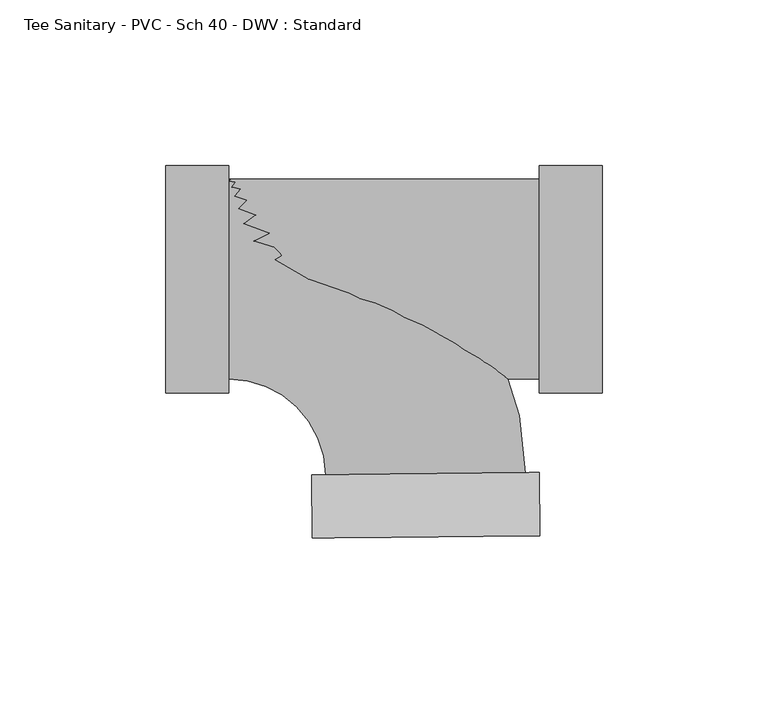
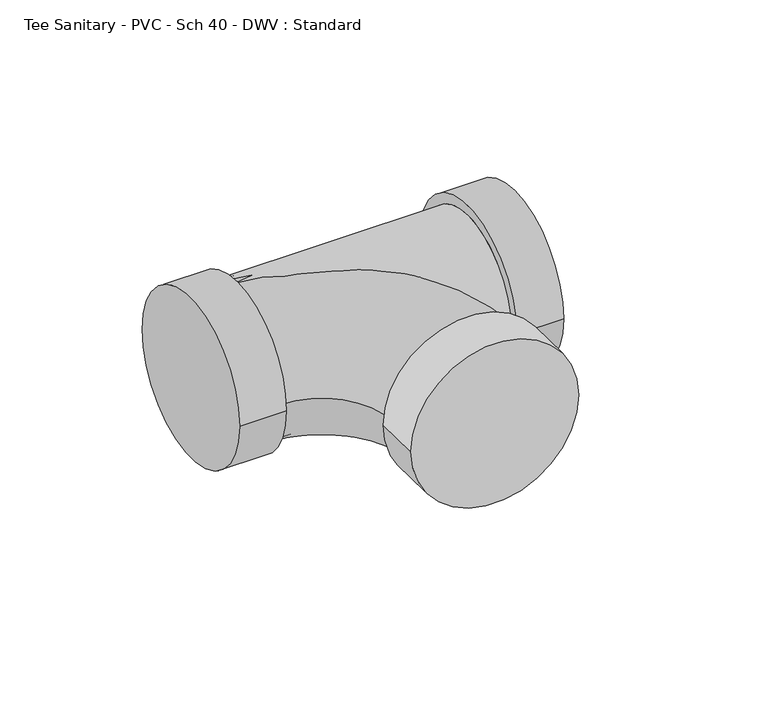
"""IFC4 building model written with IfcOpenShell, lengths in millimetres: pipe fitting geometry, Tee Sanitary - PVC - Sch 40 - DWV : Standard."""

from ifc_helpers import new_model, si_unit, point, frame, origin, place, context, project, spatial, circle_curve, ellipse_curve, trimmed, source, transform, mapped, element, save
from ifc_brep_helpers import plane_surface, cylinder_surface, revolved_surface, advanced_brep


def tee_sanitary_pvc_sch_40_dwv_standard_c06fe43b(model_context):
    return source(origin(), model_context, "Body", "AdvancedBrep", [
        advanced_brep(
        [(-58.7502, -30.1625, 0.0), (-58.7502, 30.1625, 0.0), (-29.5497329, -59.0607796, 0.0), (30.7720032, -58.433263, 0.0), (35.1228416, -77.4390327, 0.0), (-33.5042451, -78.1529485, 0.0), (34.9246785, -58.3900634, 0.0), (-33.7024082, -59.1039792, 0.0)],
        [
            (0, 1, circle_curve(frame((-58.7502, 0.0, 0.0), z_axis=(-1.0, 0.0, 0.0), x_axis=(0.0, 1.0, 0.0)), 30.1625)),
            (1, 0, circle_curve(frame((-58.7502, 0.0, 0.0), z_axis=(-1.0, 0.0, 0.0), x_axis=(0.0, 1.0, 0.0)), 30.1625)),
            (0, 2, circle_curve(frame((-58.7502, -59.364547, 0.0), z_axis=(0.0, 0.0, -1.0), x_axis=(0.0, 1.0, 0.0)), 29.202047)),
            (2, 3, circle_curve(frame((0.6111351, -58.7470213, 0.0), z_axis=(-0.010402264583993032, 0.9999458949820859, 0.0), x_axis=(0.9999458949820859, 0.010402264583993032, 0.0)), 30.1625)),
            (3, 1, circle_curve(frame((-58.7502, -59.364547, 0.0), z_axis=(0.0, 0.0, 1.0), x_axis=(0.0, 1.0, 0.0)), 89.527047)),
            (3, 2, circle_curve(frame((0.6111351, -58.7470213, 0.0), z_axis=(-0.010402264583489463, 0.9999458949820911, 0.0), x_axis=(0.9999458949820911, 0.010402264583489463, 0.0)), 30.1625)),
            (4, 5, circle_curve(frame((0.8092983, -77.7959906, 0.0), z_axis=(0.01040226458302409, -0.999945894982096, 0.0), x_axis=(-0.999945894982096, -0.01040226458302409, 0.0)), 34.3154)),
            (5, 4, circle_curve(frame((0.8092983, -77.7959906, 0.0), z_axis=(0.01040226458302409, -0.999945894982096, 0.0), x_axis=(-0.999945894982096, -0.01040226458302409, 0.0)), 34.3154)),
            (6, 7, circle_curve(frame((0.6111351, -58.7470213, 0.0), z_axis=(-0.01040226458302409, 0.999945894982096, 0.0), x_axis=(-0.999945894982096, -0.01040226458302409, 0.0)), 34.3154)),
            (7, 6, circle_curve(frame((0.6111351, -58.7470213, 0.0), z_axis=(-0.01040226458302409, 0.999945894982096, 0.0), x_axis=(-0.999945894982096, -0.01040226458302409, 0.0)), 34.3154)),
            (4, 6),
            (7, 5),
        ],
        [
            plane_surface(frame((-58.7502, 0.0, 0.0), z_axis=(-1.0, 0.0, 0.0), x_axis=(0.0, 0.0, 1.0))),
            revolved_surface(trimmed(ellipse_curve(frame((-58.7502, 0.0, 0.0), z_axis=(-1.0, 0.0, 0.0), x_axis=(0.0, 1.0, 0.0)), 30.1625, 30.1625), [point((-58.7502, -30.1625, 0.0))], [point((-58.7502, 30.1625, 0.0))], True, "CARTESIAN"), (-58.7502, -59.364547, 0.0), (0.0, 0.0, -1.0)),
            revolved_surface(trimmed(ellipse_curve(frame((-58.7502, 0.0, 0.0), z_axis=(-1.0, 0.0, 0.0), x_axis=(0.0, 1.0, 0.0)), 30.1625, 30.1625), [point((-58.7502, 30.1625, 0.0))], [point((-58.7502, -30.1625, 0.0))], True, "CARTESIAN"), (-58.7502, -59.364547, 0.0), (0.0, 0.0, -1.0)),
            plane_surface(frame((0.8092983, -77.7959906, 0.0), z_axis=(0.01040226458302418, -0.999945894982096, 0.0), x_axis=(0.0, 0.0, 1.0))),
            plane_surface(frame((0.6111351, -58.7470213, 0.0), z_axis=(-0.01040226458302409, 0.999945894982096, 0.0), x_axis=(0.0, 0.0, 1.0))),
            cylinder_surface(frame((0.8092983, -77.7959906, 0.0), z_axis=(0.01040226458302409, -0.999945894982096, 0.0), x_axis=(-0.999945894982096, -0.01040226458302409, 0.0)), 34.3154),
        ],
        [
            (0, [[1, 2]]),
            (1, [[-1, 3, 4, 5]]),
            (2, [[-2, -5, 6, -3]]),
            (3, [[7, 8]]),
            (4, [[9, 10], [-4, -6]]),
            (5, [[-7, 11, -10, 12]]),
            (5, [[-8, -12, -9, -11]]),
        ],
    ),
        advanced_brep(
        [(-58.7502, -30.1625, 0.0), (34.925, -30.1625, 0.0), (34.925, 30.1625, 0.0), (-58.7502, 30.1625, 0.0), (34.925, -34.3154, 0.0), (34.925, 34.3154, 0.0), (53.975, -34.3154, 0.0), (53.975, 34.3154, 0.0), (-77.8002, -34.3154, 0.0), (-77.8002, 34.3154, 0.0), (-58.7502, -34.3154, 0.0), (-58.7502, 34.3154, 0.0)],
        [
            (0, 1),
            (1, 2, circle_curve(frame((34.925, 0.0, 0.0), z_axis=(-1.0, 0.0, 0.0), x_axis=(0.0, 1.0, 0.0)), 30.1625)),
            (2, 3),
            (3, 0, circle_curve(frame((-58.7502, 0.0, 0.0), z_axis=(1.0, 0.0, 0.0), x_axis=(0.0, 1.0, 0.0)), 30.1625)),
            (0, 3, circle_curve(frame((-58.7502, 0.0, 0.0), z_axis=(1.0, 0.0, 0.0), x_axis=(0.0, 1.0, 0.0)), 30.1625)),
            (2, 1, circle_curve(frame((34.925, 0.0, 0.0), z_axis=(-1.0, 0.0, 0.0), x_axis=(0.0, 1.0, 0.0)), 30.1625)),
            (4, 5, circle_curve(frame((34.925, 0.0, 0.0), z_axis=(-1.0, 0.0, 0.0), x_axis=(0.0, 1.0, 0.0)), 34.3154)),
            (5, 4, circle_curve(frame((34.925, 0.0, 0.0), z_axis=(-1.0, 0.0, 0.0), x_axis=(0.0, 1.0, 0.0)), 34.3154)),
            (6, 7, circle_curve(frame((53.975, 0.0, 0.0), z_axis=(1.0, 0.0, 0.0), x_axis=(0.0, 1.0, 0.0)), 34.3154)),
            (7, 6, circle_curve(frame((53.975, 0.0, 0.0), z_axis=(1.0, 0.0, 0.0), x_axis=(0.0, 1.0, 0.0)), 34.3154)),
            (4, 6),
            (7, 5),
            (8, 9, circle_curve(frame((-77.8002, 0.0, 0.0), z_axis=(-1.0, 0.0, 0.0), x_axis=(0.0, 1.0, 0.0)), 34.3154)),
            (9, 8, circle_curve(frame((-77.8002, 0.0, 0.0), z_axis=(-1.0, 0.0, 0.0), x_axis=(0.0, 1.0, 0.0)), 34.3154)),
            (10, 11, circle_curve(frame((-58.7502, 0.0, 0.0), z_axis=(1.0, 0.0, 0.0), x_axis=(0.0, 1.0, 0.0)), 34.3154)),
            (11, 10, circle_curve(frame((-58.7502, 0.0, 0.0), z_axis=(1.0, 0.0, 0.0), x_axis=(0.0, 1.0, 0.0)), 34.3154)),
            (8, 10),
            (11, 9),
        ],
        [
            cylinder_surface(frame((-58.7502, 0.0, 0.0), z_axis=(-1.0, 0.0, 0.0), x_axis=(0.0, 1.0, 0.0)), 30.1625),
            plane_surface(frame((34.925, 0.0, 0.0), z_axis=(-1.0, 0.0, 0.0), x_axis=(0.0, 0.0, 1.0))),
            plane_surface(frame((53.975, 0.0, 0.0), z_axis=(1.0, 0.0, 0.0), x_axis=(0.0, 0.0, 1.0))),
            cylinder_surface(frame((34.925, 0.0, 0.0), z_axis=(-1.0, 0.0, 0.0), x_axis=(0.0, 1.0, 0.0)), 34.3154),
            plane_surface(frame((-77.8002, 0.0, 0.0), z_axis=(-1.0, 0.0, 0.0), x_axis=(0.0, 0.0, 1.0))),
            plane_surface(frame((-58.7502, 0.0, 0.0), z_axis=(1.0, 0.0, 0.0), x_axis=(0.0, 0.0, 1.0))),
            cylinder_surface(frame((-77.8002, 0.0, 0.0), z_axis=(-1.0, 0.0, 0.0), x_axis=(0.0, 1.0, 0.0)), 34.3154),
        ],
        [
            (0, [[1, 2, 3, 4]]),
            (0, [[-1, 5, -3, 6]]),
            (1, [[7, 8], [-2, -6]]),
            (2, [[9, 10]]),
            (3, [[-7, 11, -10, 12]]),
            (3, [[-8, -12, -9, -11]]),
            (4, [[13, 14]]),
            (5, [[15, 16], [-4, -5]]),
            (6, [[-13, 17, -16, 18]]),
            (6, [[-14, -18, -15, -17]]),
        ],
    ),
    ])


if __name__ == "__main__":
    model = new_model("IFC4")
    model_context = context("Model", 3, world=origin())
    ifc_project = project(units=[si_unit("LENGTHUNIT", "METRE", prefix="MILLI")], contexts=[model_context])
    site = spatial("IfcSite", under=ifc_project)
    building = spatial("IfcBuilding", under=site)
    placement = place(None, origin())
    tee_sanitary_pvc_sch_40_dwv_standard_shape = tee_sanitary_pvc_sch_40_dwv_standard_c06fe43b(model_context)
    element("IfcPipeFitting", 1, ObjectType="Tee Sanitary - PVC - Sch 40 - DWV : Standard", at=placement, inside=building, context=model_context, shape_type="MappedRepresentation", body=[
        mapped(tee_sanitary_pvc_sch_40_dwv_standard_shape, transform((0.0, 0.0, 0.0), x_axis=(1.0, 0.0, 0.0), y_axis=(0.0, 1.0, 0.0), z_axis=(0.0, 0.0, 1.0))),
    ])
    save(model, "model.ifc")
